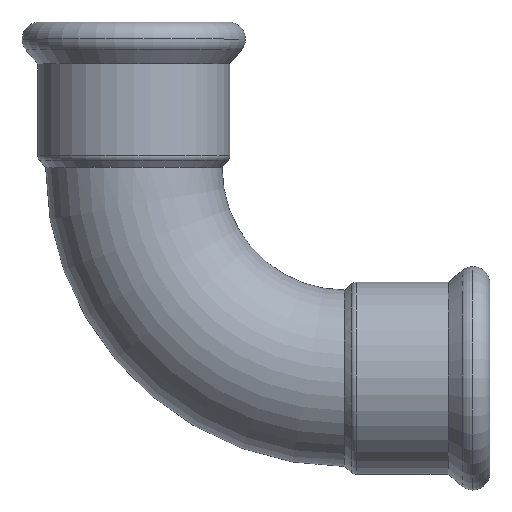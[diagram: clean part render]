
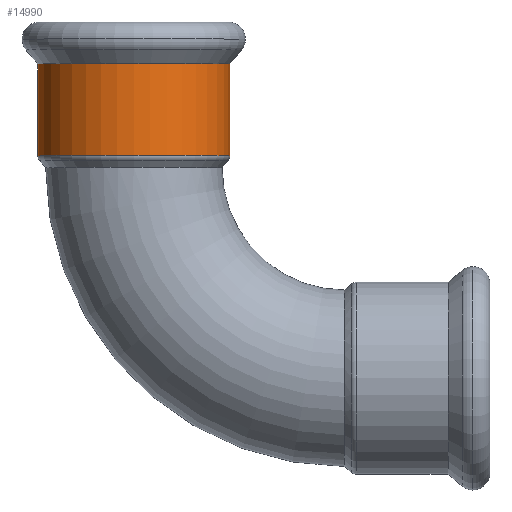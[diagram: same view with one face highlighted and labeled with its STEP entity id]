
A CAD part, top view. The second image highlights one B-rep face of the part: STEP entity #14990.
In plain terms, the highlighted cylindrical face has radius 19.15 mm (diameter 38.3 mm), a partial arc.
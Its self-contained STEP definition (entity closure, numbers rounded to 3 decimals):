
#1120=CARTESIAN_POINT('',(-269.361,214.189,0.));
#1130=VERTEX_POINT('',#1120);
#1310=CARTESIAN_POINT('',(-307.661,214.189,
0.));
#1320=VERTEX_POINT('',#1310);
#1350=CARTESIAN_POINT('',(-288.511,214.189,0.));
#1360=DIRECTION('',(0.,1.,0.));
#1370=DIRECTION('',(-1.,0.,0.));
#1380=AXIS2_PLACEMENT_3D('',#1350,#1360,#1370);
#1390=CIRCLE('',#1380,19.15);
#1450=CARTESIAN_POINT('',(-288.511,204.782,0.));
#1460=DIRECTION('',(0.,-1.,0.));
#1470=DIRECTION('',(-1.,0.,0.));
#1480=AXIS2_PLACEMENT_3D('',#1450,#1460,#1470);
#1490=CYLINDRICAL_SURFACE('',#1480,19.15);
#1500=CARTESIAN_POINT('',(-269.361,204.782,
0.));
#1510=DIRECTION('',(0.,-1.,0.));
#1520=VECTOR('',#1510,1.);
#1530=LINE('',#1500,#1520);
#1540=CARTESIAN_POINT('',(-269.361,195.922,0.));
#1550=VERTEX_POINT('',#1540);
#1560=EDGE_CURVE('',#1130,#1550,#1530,.T.);
#1590=CARTESIAN_POINT('',(-307.661,204.782,0.));
#1600=DIRECTION('',(0.,-1.,0.));
#1610=VECTOR('',#1600,1.);
#1620=LINE('',#1590,#1610);
#1630=CARTESIAN_POINT('',(-307.661,195.922,0.));
#1640=VERTEX_POINT('',#1630);
#1650=EDGE_CURVE('',#1320,#1640,#1620,.T.);
#1670=CARTESIAN_POINT('',(-288.511,195.922,0.));
#1680=DIRECTION('',(0.,-1.,0.));
#1690=DIRECTION('',(-1.,0.,0.));
#1700=AXIS2_PLACEMENT_3D('',#1670,#1680,#1690);
#1710=CIRCLE('',#1700,19.15);
#10970=EDGE_CURVE('',#1320,#1130,#1390,.T.);
#14920=ORIENTED_EDGE('',*,*,#10970,.F.);
#14930=ORIENTED_EDGE('',*,*,#1560,.F.);
#14940=EDGE_CURVE('',#1550,#1640,#1710,.T.);
#14950=ORIENTED_EDGE('',*,*,#14940,.F.);
#14960=ORIENTED_EDGE('',*,*,#1650,.T.);
#14970=EDGE_LOOP('',(#14960,#14950,#14930,#14920));
#14980=FACE_OUTER_BOUND('',#14970,.T.);
#14990=ADVANCED_FACE('',(#14980),#1490,.T.);
